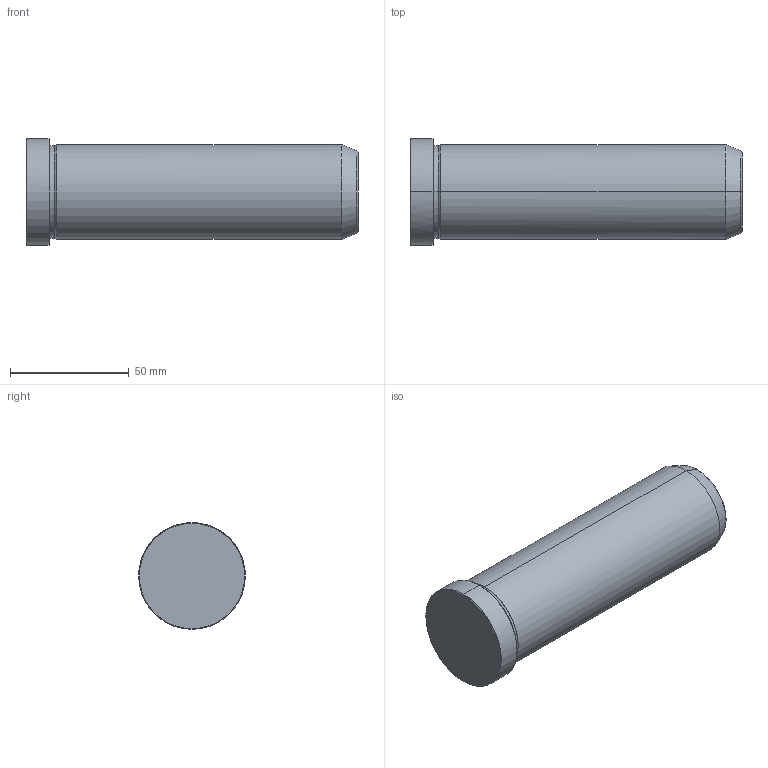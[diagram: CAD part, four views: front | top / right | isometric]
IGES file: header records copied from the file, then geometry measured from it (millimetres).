
Start section: START RECORD GO HERE.
Global section: file name: 549-40X140.igs; native system: DASSAULT SYSTEMES CATIA V5 R20 - www.3ds.com; preprocessor: CATIA Version 5 Release 20 ; author: Utente; organization: NB04-ASUS; date: 20211218.091702; units: millimetre
Bounding box: 140 x 45 x 45 mm (x, y, z)
Surface area: 20606 mm2 (no closed solid volume)
Topology: 0 solids, 0 shells, 19 faces, 112 edges, 112 vertices
Faces by surface type: revolution 16, plane 3
